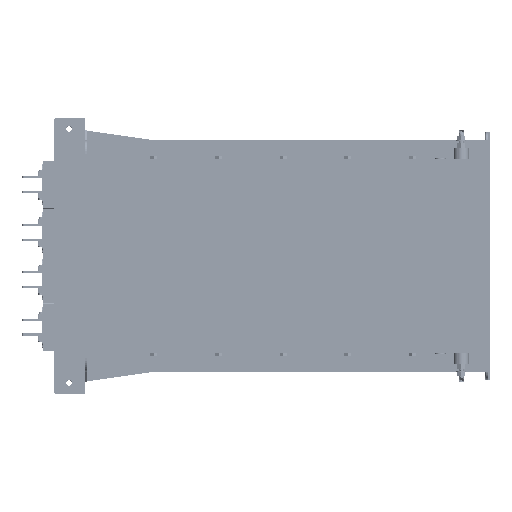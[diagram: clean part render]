
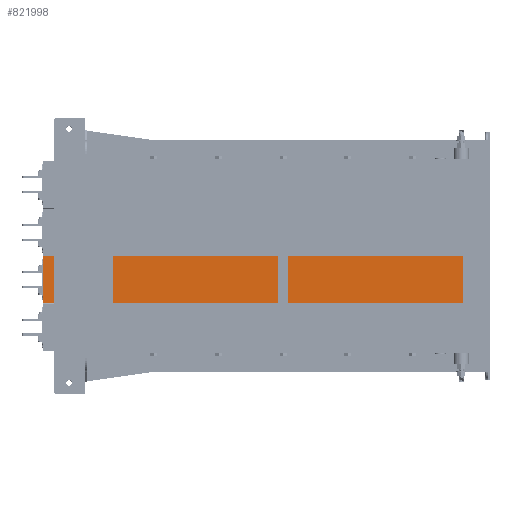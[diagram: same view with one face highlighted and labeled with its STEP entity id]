
A CAD part, left-side view. The second image highlights one B-rep face of the part: STEP entity #821998.
In plain terms, the highlighted planar face has unit normal (-1, 0, 0).
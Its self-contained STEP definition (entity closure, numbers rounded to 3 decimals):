
#67729 = ORIENTED_EDGE ( 'NONE', *, *, #561106, .T. ) ;
#70656 = VECTOR ( 'NONE', #580558, 1000. ) ;
#83639 = EDGE_CURVE ( 'NONE', #826761, #747711, #225299, .T. ) ;
#88667 = LINE ( 'NONE', #484410, #635649 ) ;
#142030 = FACE_OUTER_BOUND ( 'NONE', #641870, .T. ) ;
#145910 = ORIENTED_EDGE ( 'NONE', *, *, #512663, .T. ) ;
#155892 = CARTESIAN_POINT ( 'NONE',  ( -219.69, 29.471, 38.163 ) ) ;
#186176 = CARTESIAN_POINT ( 'NONE',  ( -219.547, -724.529, 38.163 ) ) ;
#194241 = LINE ( 'NONE', #390018, #649584 ) ;
#198520 = DIRECTION ( 'NONE',  ( 0., 0., -1. ) ) ;
#212132 = DIRECTION ( 'NONE',  ( 0., 1., 0. ) ) ;
#225299 = LINE ( 'NONE', #307720, #233867 ) ;
#233867 = VECTOR ( 'NONE', #303431, 1000. ) ;
#243501 = VERTEX_POINT ( 'NONE', #765058 ) ;
#245705 = CARTESIAN_POINT ( 'NONE',  ( -219.686, 8.471, -50.637 ) ) ;
#268809 = CARTESIAN_POINT ( 'NONE',  ( -219.69, 29.471, 37.963 ) ) ;
#292502 = CARTESIAN_POINT ( 'NONE',  ( -219.703, 98.471, 37.963 ) ) ;
#303431 = DIRECTION ( 'NONE',  ( 0., 1., 0. ) ) ;
#307720 = CARTESIAN_POINT ( 'NONE',  ( -219.686, 8.471, 37.963 ) ) ;
#310158 = EDGE_CURVE ( 'NONE', #653178, #243501, #194241, .T. ) ;
#318199 = ORIENTED_EDGE ( 'NONE', *, *, #567028, .T. ) ;
#343295 = VERTEX_POINT ( 'NONE', #520799 ) ;
#344676 = VECTOR ( 'NONE', #630307, 1000. ) ;
#346275 = DIRECTION ( 'NONE',  ( 1., 0., 0. ) ) ;
#371356 = ORIENTED_EDGE ( 'NONE', *, *, #310158, .T. ) ;
#390018 = CARTESIAN_POINT ( 'NONE',  ( -219.69, 29.471, 10.163 ) ) ;
#407254 = PLANE ( 'NONE',  #765213 ) ;
#410492 = ORIENTED_EDGE ( 'NONE', *, *, #83639, .T. ) ;
#421657 = LINE ( 'NONE', #834741, #344676 ) ;
#438724 = EDGE_CURVE ( 'NONE', #343295, #243501, #816579, .T. ) ;
#439899 = CARTESIAN_POINT ( 'NONE',  ( -219.69, 29.471, -50.637 ) ) ;
#451154 = VECTOR ( 'NONE', #212132, 1000. ) ;
#462360 = DIRECTION ( 'NONE',  ( 0., 0., -1. ) ) ;
#472868 = EDGE_CURVE ( 'NONE', #685790, #343295, #825776, .T. ) ;
#481429 = VECTOR ( 'NONE', #756205, 1000. ) ;
#484410 = CARTESIAN_POINT ( 'NONE',  ( -219.69, 29.471, 10.163 ) ) ;
#485942 = ORIENTED_EDGE ( 'NONE', *, *, #505931, .T. ) ;
#485982 = CARTESIAN_POINT ( 'NONE',  ( -219.547, -724.529, -50.837 ) ) ;
#486609 = CARTESIAN_POINT ( 'NONE',  ( -219.547, -724.529, -50.837 ) ) ;
#505931 = EDGE_CURVE ( 'NONE', #747711, #587426, #527601, .T. ) ;
#512663 = EDGE_CURVE ( 'NONE', #685790, #532076, #421657, .T. ) ;
#518544 = DIRECTION ( 'NONE',  ( 0., 0., 1. ) ) ;
#520799 = CARTESIAN_POINT ( 'NONE',  ( -219.547, -724.529, -50.837 ) ) ;
#527601 = LINE ( 'NONE', #780087, #742762 ) ;
#532076 = VERTEX_POINT ( 'NONE', #155892 ) ;
#561106 = EDGE_CURVE ( 'NONE', #532076, #826761, #88667, .T. ) ;
#567028 = EDGE_CURVE ( 'NONE', #587426, #653178, #841622, .T. ) ;
#580558 = DIRECTION ( 'NONE',  ( 0., -1., 0. ) ) ;
#587426 = VERTEX_POINT ( 'NONE', #623122 ) ;
#623122 = CARTESIAN_POINT ( 'NONE',  ( -219.703, 98.471, -50.637 ) ) ;
#630307 = DIRECTION ( 'NONE',  ( 0., 1., 0. ) ) ;
#635649 = VECTOR ( 'NONE', #749746, 1000. ) ;
#641870 = EDGE_LOOP ( 'NONE', ( #318199, #371356, #802636, #715272, #145910, #67729, #410492, #485942 ) ) ;
#649584 = VECTOR ( 'NONE', #198520, 1000. ) ;
#653178 = VERTEX_POINT ( 'NONE', #439899 ) ;
#672569 = CARTESIAN_POINT ( 'NONE',  ( -219.686, 8.471, -50.837 ) ) ;
#685790 = VERTEX_POINT ( 'NONE', #186176 ) ;
#715272 = ORIENTED_EDGE ( 'NONE', *, *, #472868, .F. ) ;
#742762 = VECTOR ( 'NONE', #462360, 1000. ) ;
#747711 = VERTEX_POINT ( 'NONE', #292502 ) ;
#749746 = DIRECTION ( 'NONE',  ( 0., 0., -1. ) ) ;
#756205 = DIRECTION ( 'NONE',  ( 0., 0., -1. ) ) ;
#765058 = CARTESIAN_POINT ( 'NONE',  ( -219.69, 29.471, -50.837 ) ) ;
#765213 = AXIS2_PLACEMENT_3D ( 'NONE', #672569, #346275, #518544 ) ;
#780087 = CARTESIAN_POINT ( 'NONE',  ( -219.703, 98.471, -50.837 ) ) ;
#802636 = ORIENTED_EDGE ( 'NONE', *, *, #438724, .F. ) ;
#816579 = LINE ( 'NONE', #485982, #451154 ) ;
#821998 = ADVANCED_FACE ( 'NONE', ( #142030 ), #407254, .F. ) ;
#825776 = LINE ( 'NONE', #486609, #481429 ) ;
#826761 = VERTEX_POINT ( 'NONE', #268809 ) ;
#834741 = CARTESIAN_POINT ( 'NONE',  ( -219.547, -724.529, 38.163 ) ) ;
#841622 = LINE ( 'NONE', #245705, #70656 ) ;
